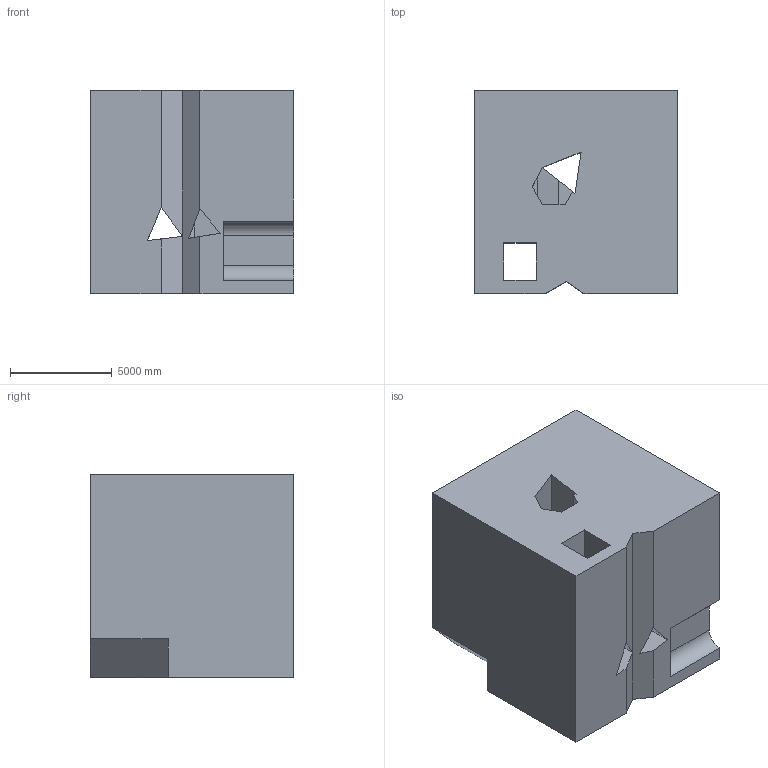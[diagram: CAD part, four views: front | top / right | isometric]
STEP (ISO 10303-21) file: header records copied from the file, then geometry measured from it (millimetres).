
FILE_DESCRIPTION (( 'STEP AP203' ), '1' );
FILE_NAME ('847.STEP', '2022-07-29T13:40:39', ( 'user' ), ( '' ), 'SwSTEP 2.0', 'SolidWorks 2021', '' );
FILE_SCHEMA (( 'CONFIG_CONTROL_DESIGN' ));
Length unit declared in the file: centimetre
Products named in the file (1): 847
Bounding box: 10000 x 10000 x 10000 mm (x, y, z)
Volume: 892687641311.2 mm3; surface area: 814642215.2 mm2
Topology: 1 solids, 1 shells, 41 faces, 131 edges, 86 vertices
Faces by surface type: plane 37, cylinder 4
Entity records: 1522 total; most frequent: ORIENTED_EDGE 262, CARTESIAN_POINT 259, DIRECTION 223, EDGE_CURVE 131, LINE 123, VECTOR 123, VERTEX_POINT 86, AXIS2_PLACEMENT_3D 50
